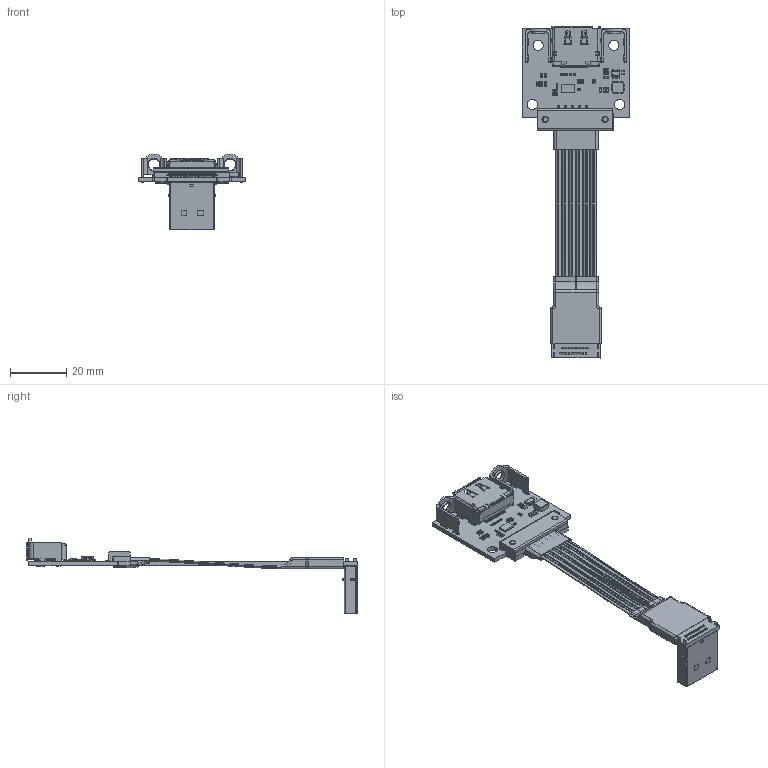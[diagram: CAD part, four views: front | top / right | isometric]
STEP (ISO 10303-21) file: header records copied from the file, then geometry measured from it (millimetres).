
FILE_DESCRIPTION(('Open CASCADE Model'),'2;1');
FILE_NAME('Open CASCADE Shape Model','2025-12-30T11:30:46',('Author'),( 'Open CASCADE'),'Open CASCADE STEP processor 7.5','Open CASCADE 7.5' ,'Unknown');
FILE_SCHEMA(('AUTOMOTIVE_DESIGN { 1 0 10303 214 1 1 1 1 }'));
Length unit declared in the file: millimetre
Products named in the file (82): PCB; Board; Open CASCADE STEP translator 7.5 3.1.1; C1; C0201_020; C2; C3; C4; C5; C6; C7; C8; C9; C10; C11; C12; C13; C14; C15; C16; C17; C18; C19; C0603_060; C20; C21; C22; C23; C24; C25; C26; C27; C28; CN1; DP DisplayPort2; L1; WE_Inductor_4020; R1; 0603_RES; Capsule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
Assembly tree (176 placements, depth 4):
  PCB
    Board
      Open CASCADE STEP translator 7.5 3.1.1
    C1
      C0201_020
      C0201_020
      C0201_020
    C2
      C0201_020
      C0201_020
      C0201_020
    C3
      C0201_020
      C0201_020
      C0201_020
    C4
      C0201_020
      C0201_020
      C0201_020
    C5
      C0201_020
      C0201_020
      C0201_020
    C6
      C0201_020
      C0201_020
      C0201_020
    C7
      C0201_020
      C0201_020
      C0201_020
    C8
      C0201_020
      C0201_020
      C0201_020
    C9
      C0201_020
      C0201_020
      C0201_020
    C10
      C0201_020
      C0201_020
      C0201_020
    C11
      C0201_020
      C0201_020
      C0201_020
    C12
      C0201_020
      C0201_020
      C0201_020
    C13
      C0201_020
      C0201_020
      C0201_020
    C14
      C0201_020
      C0201_020
      C0201_020
    C15
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Bounding box: 38.08 x 118.12 x 27.03 mm (x, y, z)
Volume: 6741.9 mm3; surface area: 25020.9 mm2
Topology: 191 solids, 192 shells, 6573 faces, 16926 edges, 10776 vertices
Faces by surface type: plane 3132, bspline 1698, cylinder 1481, sphere 224, torus 28, cone 6, revolution 4
Full cylindrical faces by diameter (mm): 0.254 x48, 0.392 x1, 0.55 x20, 1.4 x1, 2.2 x4, 3.6 x4, 4 x2, 4.4 x2
Entity records: 163746 total; most frequent: CARTESIAN_POINT 38206, ORIENTED_EDGE 17620, DIRECTION 13087, EDGE_CURVE 8814, VERTEX_POINT 5740, PRESENTATION_STYLE_ASSIGNMENT 5423, SURFACE_STYLE_USAGE 5423, SURFACE_SIDE_STYLE 5423
